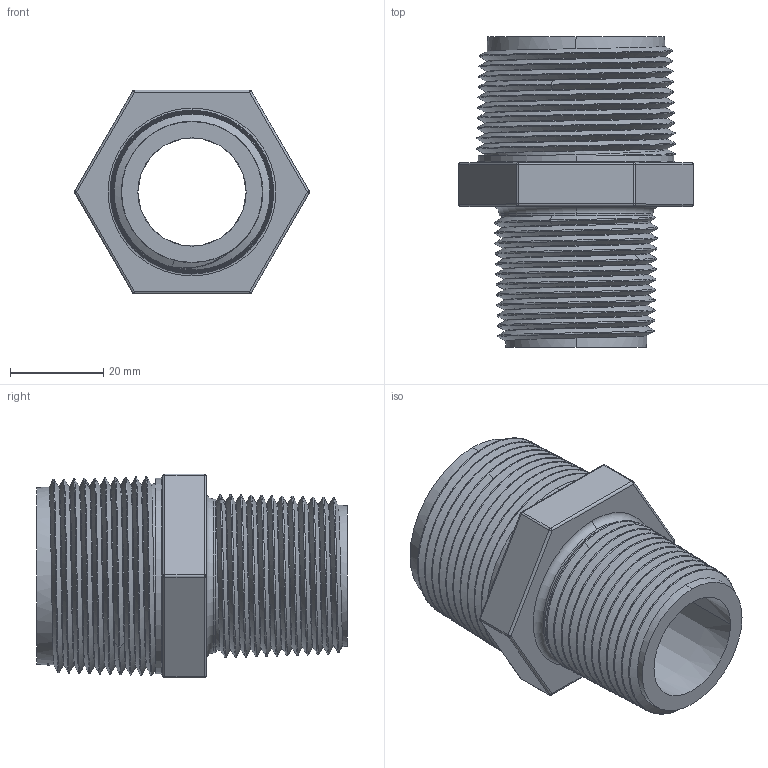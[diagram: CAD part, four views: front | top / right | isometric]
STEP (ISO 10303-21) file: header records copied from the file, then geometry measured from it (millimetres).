
FILE_DESCRIPTION(/* description */ ('Alibre Inc.'),/* implementation_level */ '2;1');
FILE_NAME(/* name */ 'export0',/* time_stamp */ '2019-10-08T10:48:42-04:00',/* author */ (''),/* organization */ (''),/* preprocessor_version */ 'ST-DEVELOPER v17',/* originating_system */ 'Alibre',/* authorisation */ '');
FILE_SCHEMA (('CONFIG_CONTROL_DESIGN'));
Length unit declared in the file: inch
Products named in the file (1): 200-62235-1000C
Bounding box: 50.35 x 66.6 x 43.73 mm (x, y, z)
Volume: 41335.3 mm3; surface area: 19796.7 mm2
Topology: 1 solids, 1 shells, 133 faces, 337 edges, 195 vertices
Faces by surface type: cone 49, bspline 30, cylinder 22, plane 14, sphere 12, torus 6
Entity records: 40815 total; most frequent: CARTESIAN_POINT 38265, ORIENTED_EDGE 644, EDGE_CURVE 322, DIRECTION 316, VERTEX_POINT 195, B_SPLINE_CURVE_WITH_KNOTS 166, EDGE_LOOP 139, FACE_BOUND 139
